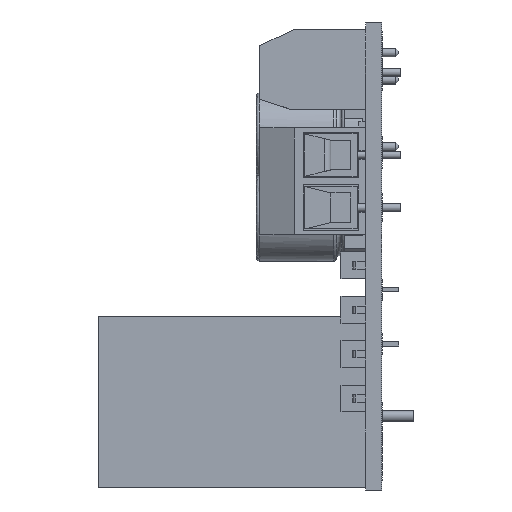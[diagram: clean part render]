
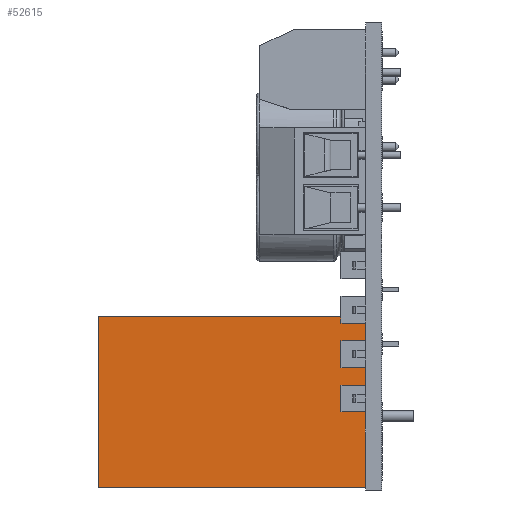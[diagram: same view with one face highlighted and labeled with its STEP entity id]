
A CAD part, left-side view. The second image highlights one B-rep face of the part: STEP entity #52615.
In plain terms, the highlighted planar face has unit normal (-1, 0, 0).
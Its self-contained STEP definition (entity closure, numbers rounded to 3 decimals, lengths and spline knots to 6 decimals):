
#2852=LINE('',#90664,#7921);
#5412=LINE('',#100525,#10481);
#5417=LINE('',#100535,#10486);
#5439=LINE('',#100579,#10508);
#7921=VECTOR('',#75246,1.);
#10481=VECTOR('',#80144,1.);
#10486=VECTOR('',#80153,1.);
#10508=VECTOR('',#80191,1.);
#23783=ORIENTED_EDGE('',*,*,#31395,.T.);
#23784=ORIENTED_EDGE('',*,*,#31372,.T.);
#23785=ORIENTED_EDGE('',*,*,#27927,.F.);
#23786=ORIENTED_EDGE('',*,*,#31367,.T.);
#27927=EDGE_CURVE('',#34549,#34550,#2852,.T.);
#31367=EDGE_CURVE('',#34549,#37259,#5412,.T.);
#31372=EDGE_CURVE('',#37262,#34550,#5417,.F.);
#31395=EDGE_CURVE('',#37259,#37262,#5439,.F.);
#34549=VERTEX_POINT('',#90663);
#34550=VERTEX_POINT('',#90665);
#37259=VERTEX_POINT('',#100526);
#37262=VERTEX_POINT('',#100536);
#41835=EDGE_LOOP('',(#23783,#23784,#23785,#23786));
#45091=FACE_BOUND('',#41835,.T.);
#47329=PLANE('',#72282);
#52615=ADVANCED_FACE('',(#45091),#47329,.T.);
#72282=AXIS2_PLACEMENT_3D('',#103618,#82433,#82434);
#75246=DIRECTION('',(0.,0.,-1.));
#80144=DIRECTION('',(0.,1.,0.));
#80153=DIRECTION('',(0.,1.,0.));
#80191=DIRECTION('',(0.,0.,1.));
#82433=DIRECTION('',(-1.,0.,0.));
#82434=DIRECTION('',(0.,0.,1.));
#90663=CARTESIAN_POINT('',(0.00975,0.00151,-0.02755));
#90664=CARTESIAN_POINT('',(0.00975,0.00151,-0.021875));
#90665=CARTESIAN_POINT('',(0.00975,0.00151,-0.04355));
#100525=CARTESIAN_POINT('',(0.00975,0.00151,-0.02755));
#100526=CARTESIAN_POINT('',(0.00975,0.02651,-0.02755));
#100535=CARTESIAN_POINT('',(0.00975,0.00151,-0.04355));
#100536=CARTESIAN_POINT('',(0.00975,0.02651,-0.04355));
#100579=CARTESIAN_POINT('',(0.00975,0.02651,-0.04355));
#103618=CARTESIAN_POINT('',(0.00975,0.00151,-0.04355));
